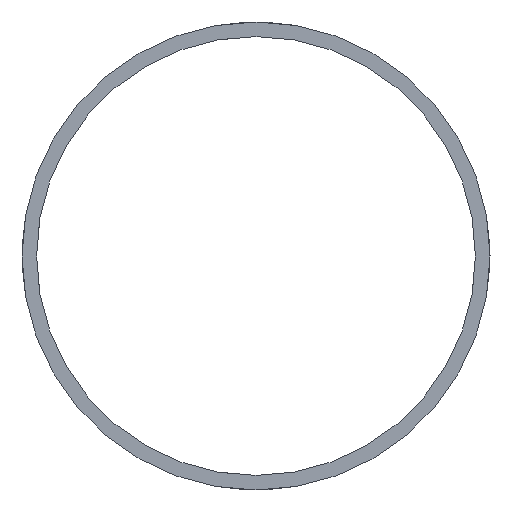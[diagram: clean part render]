
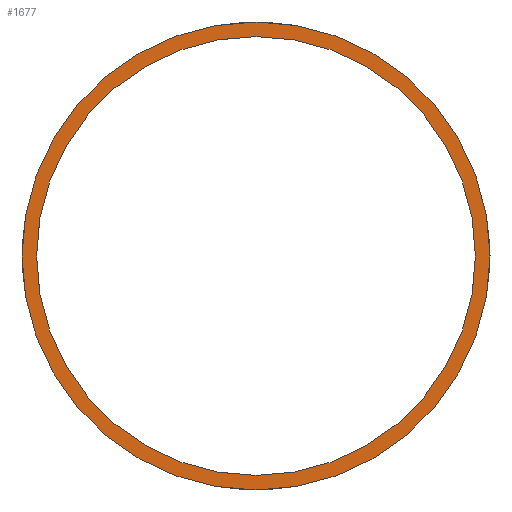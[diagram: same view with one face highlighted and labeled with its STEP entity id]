
A CAD part, left-side view. The second image highlights one B-rep face of the part: STEP entity #1677.
In plain terms, the highlighted planar face has unit normal (-1, 0, 0).
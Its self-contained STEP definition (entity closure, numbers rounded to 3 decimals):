
#21 = EDGE_CURVE('',#22,#22,#24,.T.);
#22 = VERTEX_POINT('',#23);
#23 = CARTESIAN_POINT('',(0.,50.8,101.6));
#24 = SURFACE_CURVE('',#25,(#30,#42),.PCURVE_S1.);
#25 = CIRCLE('',#26,50.8);
#26 = AXIS2_PLACEMENT_3D('',#27,#28,#29);
#27 = CARTESIAN_POINT('',(0.,50.8,50.8));
#28 = DIRECTION('',(1.,0.,0.));
#29 = DIRECTION('',(-0.,0.,1.));
#30 = PCURVE('',#31,#36);
#31 = CYLINDRICAL_SURFACE('',#32,50.8);
#32 = AXIS2_PLACEMENT_3D('',#33,#34,#35);
#33 = CARTESIAN_POINT('',(0.,50.8,50.8));
#34 = DIRECTION('',(1.,0.,0.));
#35 = DIRECTION('',(-0.,0.,1.));
#36 = DEFINITIONAL_REPRESENTATION('',(#37),#41);
#37 = LINE('',#38,#39);
#38 = CARTESIAN_POINT('',(0.,0.));
#39 = VECTOR('',#40,1.);
#40 = DIRECTION('',(1.,0.));
#41 = ( GEOMETRIC_REPRESENTATION_CONTEXT(2) 
PARAMETRIC_REPRESENTATION_CONTEXT() REPRESENTATION_CONTEXT('2D SPACE',''
  ) );
#42 = PCURVE('',#43,#48);
#43 = PLANE('',#44);
#44 = AXIS2_PLACEMENT_3D('',#45,#46,#47);
#45 = CARTESIAN_POINT('',(0.,50.8,50.8));
#46 = DIRECTION('',(1.,0.,0.));
#47 = DIRECTION('',(-0.,0.,1.));
#48 = DEFINITIONAL_REPRESENTATION('',(#49),#53);
#49 = CIRCLE('',#50,50.8);
#50 = AXIS2_PLACEMENT_2D('',#51,#52);
#51 = CARTESIAN_POINT('',(0.,0.));
#52 = DIRECTION('',(1.,0.));
#53 = ( GEOMETRIC_REPRESENTATION_CONTEXT(2) 
PARAMETRIC_REPRESENTATION_CONTEXT() REPRESENTATION_CONTEXT('2D SPACE',''
  ) );
#1677 = ADVANCED_FACE('',(#1678,#1681),#43,.F.);
#1678 = FACE_BOUND('',#1679,.F.);
#1679 = EDGE_LOOP('',(#1680));
#1680 = ORIENTED_EDGE('',*,*,#21,.T.);
#1681 = FACE_BOUND('',#1682,.F.);
#1682 = EDGE_LOOP('',(#1683));
#1683 = ORIENTED_EDGE('',*,*,#1684,.F.);
#1684 = EDGE_CURVE('',#1685,#1685,#1687,.T.);
#1685 = VERTEX_POINT('',#1686);
#1686 = CARTESIAN_POINT('',(0.,50.8,98.425));
#1687 = SURFACE_CURVE('',#1688,(#1693,#1700),.PCURVE_S1.);
#1688 = CIRCLE('',#1689,47.625);
#1689 = AXIS2_PLACEMENT_3D('',#1690,#1691,#1692);
#1690 = CARTESIAN_POINT('',(0.,50.8,50.8));
#1691 = DIRECTION('',(1.,0.,0.));
#1692 = DIRECTION('',(-0.,0.,1.));
#1693 = PCURVE('',#43,#1694);
#1694 = DEFINITIONAL_REPRESENTATION('',(#1695),#1699);
#1695 = CIRCLE('',#1696,47.625);
#1696 = AXIS2_PLACEMENT_2D('',#1697,#1698);
#1697 = CARTESIAN_POINT('',(0.,0.));
#1698 = DIRECTION('',(1.,0.));
#1699 = ( GEOMETRIC_REPRESENTATION_CONTEXT(2) 
PARAMETRIC_REPRESENTATION_CONTEXT() REPRESENTATION_CONTEXT('2D SPACE',''
  ) );
#1700 = PCURVE('',#1701,#1706);
#1701 = CYLINDRICAL_SURFACE('',#1702,47.625);
#1702 = AXIS2_PLACEMENT_3D('',#1703,#1704,#1705);
#1703 = CARTESIAN_POINT('',(-1.,50.8,50.8)
  );
#1704 = DIRECTION('',(1.,0.,0.));
#1705 = DIRECTION('',(-0.,0.,1.));
#1706 = DEFINITIONAL_REPRESENTATION('',(#1707),#1711);
#1707 = LINE('',#1708,#1709);
#1708 = CARTESIAN_POINT('',(0.,1.));
#1709 = VECTOR('',#1710,1.);
#1710 = DIRECTION('',(1.,0.));
#1711 = ( GEOMETRIC_REPRESENTATION_CONTEXT(2) 
PARAMETRIC_REPRESENTATION_CONTEXT() REPRESENTATION_CONTEXT('2D SPACE',''
  ) );
